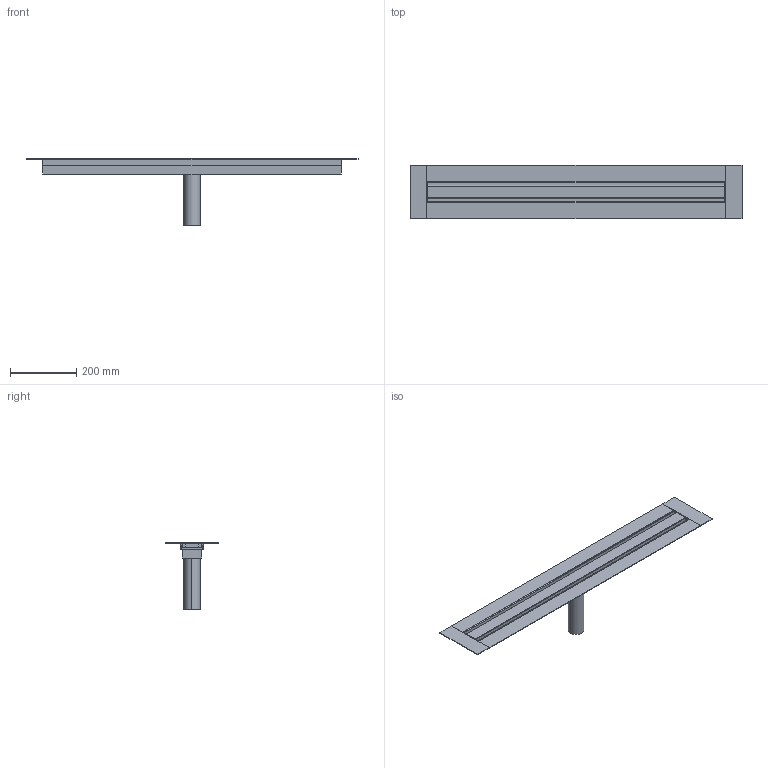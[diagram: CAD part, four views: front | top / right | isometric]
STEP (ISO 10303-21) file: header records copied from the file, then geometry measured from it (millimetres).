
FILE_DESCRIPTION(/* description */ (''),/* implementation_level */ '2;1');
FILE_NAME(/* name */ 'E:\Workspace\resitec\Packs\Kategorie\Entwässerungsrinne\STP\RS775KVDuschrinne verdeckt-4xKR.s.ipt.stp',/* time_stamp */ '2020-10-04T20:59:16+02:00',/* author */ ('ndmes'),/* organization */ (''),/* preprocessor_version */ 'ST-DEVELOPER v18.1',/* originating_system */ 'Autodesk Inventor 2021',/* authorisation */ '');
FILE_SCHEMA (('AUTOMOTIVE_DESIGN { 1 0 10303 214 3 1 1 }'));
Length unit declared in the file: millimetre
Products named in the file (1): RS775KVDuschrinne verdeckt-4xKR.s
Bounding box: 1000 x 160 x 200 mm (x, y, z)
Volume: 2789820.4 mm3; surface area: 576380.1 mm2
Topology: 10 solids, 10 shells, 72 faces, 156 edges, 104 vertices
Faces by surface type: plane 64, cylinder 8
Entity records: 1968 total; most frequent: CARTESIAN_POINT 333, DIRECTION 318, ORIENTED_EDGE 312, EDGE_CURVE 156, LINE 140, VECTOR 140, VERTEX_POINT 104, AXIS2_PLACEMENT_3D 89
